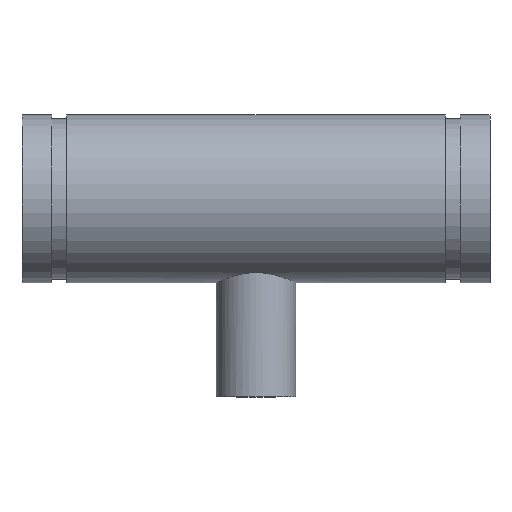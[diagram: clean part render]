
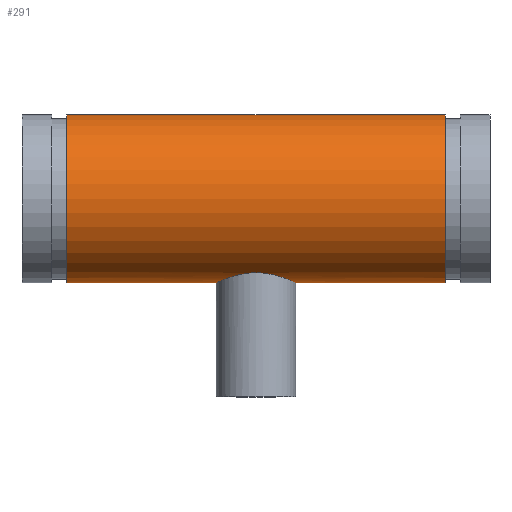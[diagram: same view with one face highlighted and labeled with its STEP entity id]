
A CAD part, top view. The second image highlights one B-rep face of the part: STEP entity #291.
In plain terms, the highlighted cylindrical face has radius 44.45 mm (diameter 88.9 mm), a full revolution.
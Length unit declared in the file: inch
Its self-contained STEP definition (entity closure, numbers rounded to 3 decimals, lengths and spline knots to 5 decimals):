
#45=B_SPLINE_CURVE_WITH_KNOTS('',3,(#511,#512,#513,#514,#515,#516,#517,
#518,#519,#520,#521,#522,#523,#524,#525,#526,#527,#528,#529,#530,#531,#532,
#533,#534,#535,#536,#537,#538,#539,#540,#541,#542,#543,#544,#545,#546,#547,
#548,#549,#550,#551,#552,#553,#554,#555,#556,#557,#558,#559,#560),
 .UNSPECIFIED.,.F.,.F.,(4,2,2,2,2,2,2,2,2,2,2,2,2,2,2,2,2,2,2,2,2,2,2,2,
4),(0.,0.4047,0.80939,1.21409,1.61879,
2.02261,2.42644,2.83027,3.2341,3.63793,
4.04176,4.44558,4.84941,5.25411,5.65881,
6.0635,6.4682,6.8729,7.27759,7.68229,
8.08699,8.49081,8.89464,9.29847,9.7023),
 .UNSPECIFIED.);
#46=B_SPLINE_CURVE_WITH_KNOTS('',3,(#561,#562,#563,#564,#565,#566,#567,
#568,#569,#570,#571,#572,#573,#574,#575,#576,#577,#578),.UNSPECIFIED.,.F.,
 .F.,(4,2,2,2,2,2,2,2,4),(9.7023,10.10613,10.50996,
10.91378,11.31761,11.72231,12.12701,12.5317,
12.9364),.UNSPECIFIED.);
#51=LINE('',#508,#59);
#59=VECTOR('',#410,1.75);
#67=CYLINDRICAL_SURFACE('',#338,1.75);
#77=FACE_BOUND('',#108,.T.);
#88=FACE_OUTER_BOUND('',#107,.T.);
#107=EDGE_LOOP('',(#221,#222,#223,#224));
#108=EDGE_LOOP('',(#225,#226));
#121=CIRCLE('',#321,1.75);
#132=CIRCLE('',#337,1.75);
#141=VERTEX_POINT('',#476);
#152=VERTEX_POINT('',#505);
#153=VERTEX_POINT('',#509);
#154=VERTEX_POINT('',#510);
#165=EDGE_CURVE('',#141,#141,#121,.T.);
#178=EDGE_CURVE('',#152,#152,#132,.T.);
#179=EDGE_CURVE('',#152,#141,#51,.T.);
#180=EDGE_CURVE('',#153,#154,#45,.T.);
#181=EDGE_CURVE('',#154,#153,#46,.T.);
#221=ORIENTED_EDGE('',*,*,#178,.T.);
#222=ORIENTED_EDGE('',*,*,#179,.T.);
#223=ORIENTED_EDGE('',*,*,#165,.T.);
#224=ORIENTED_EDGE('',*,*,#179,.F.);
#225=ORIENTED_EDGE('',*,*,#180,.F.);
#226=ORIENTED_EDGE('',*,*,#181,.F.);
#291=ADVANCED_FACE('',(#88,#77),#67,.T.);
#321=AXIS2_PLACEMENT_3D('',#477,#372,#373);
#337=AXIS2_PLACEMENT_3D('',#506,#406,#407);
#338=AXIS2_PLACEMENT_3D('',#507,#408,#409);
#372=DIRECTION('center_axis',(-1.,0.,0.));
#373=DIRECTION('ref_axis',(0.,-1.,0.));
#406=DIRECTION('center_axis',(1.,0.,0.));
#407=DIRECTION('ref_axis',(0.,-1.,0.));
#408=DIRECTION('center_axis',(-1.,0.,0.));
#409=DIRECTION('ref_axis',(0.,-1.,0.));
#410=DIRECTION('',(1.,0.,0.));
#476=CARTESIAN_POINT('',(3.942,1.75,0.));
#477=CARTESIAN_POINT('Origin',(3.942,0.,0.));
#505=CARTESIAN_POINT('',(-3.942,1.75,0.));
#506=CARTESIAN_POINT('Origin',(-3.942,0.,0.));
#507=CARTESIAN_POINT('Origin',(4.88,0.,0.));
#508=CARTESIAN_POINT('',(4.88,1.75,0.));
#509=CARTESIAN_POINT('',(0.,-1.54065,-0.83));
#510=CARTESIAN_POINT('',(-0.83,-1.75,0.));
#511=CARTESIAN_POINT('Ctrl Pts',(0.,-1.54065,
-0.83));
#512=CARTESIAN_POINT('Ctrl Pts',(0.05311,-1.54065,-0.83));
#513=CARTESIAN_POINT('Ctrl Pts',(0.10769,-1.54348,-0.82482));
#514=CARTESIAN_POINT('Ctrl Pts',(0.21565,-1.55474,-0.80338));
#515=CARTESIAN_POINT('Ctrl Pts',(0.26902,-1.56316,-0.78713));
#516=CARTESIAN_POINT('Ctrl Pts',(0.37094,-1.58389,-0.74455));
#517=CARTESIAN_POINT('Ctrl Pts',(0.41957,-1.59618,-0.71819));
#518=CARTESIAN_POINT('Ctrl Pts',(0.50934,-1.62209,-0.65758));
#519=CARTESIAN_POINT('Ctrl Pts',(0.55048,-1.63569,-0.62332));
#520=CARTESIAN_POINT('Ctrl Pts',(0.62324,-1.66159,-0.55056));
#521=CARTESIAN_POINT('Ctrl Pts',(0.65749,-1.67485,-0.50946));
#522=CARTESIAN_POINT('Ctrl Pts',(0.71813,-1.69957,-0.41967));
#523=CARTESIAN_POINT('Ctrl Pts',(0.74453,-1.71101,-0.37098));
#524=CARTESIAN_POINT('Ctrl Pts',(0.78716,-1.72999,-0.26895));
#525=CARTESIAN_POINT('Ctrl Pts',(0.80342,-1.73752,-0.21552));
#526=CARTESIAN_POINT('Ctrl Pts',(0.82484,-1.74753,-0.10754));
#527=CARTESIAN_POINT('Ctrl Pts',(0.83,-1.75,-0.053));
#528=CARTESIAN_POINT('Ctrl Pts',(0.83,-1.75,0.053));
#529=CARTESIAN_POINT('Ctrl Pts',(0.82484,-1.74753,0.10754));
#530=CARTESIAN_POINT('Ctrl Pts',(0.80342,-1.73752,0.21552));
#531=CARTESIAN_POINT('Ctrl Pts',(0.78716,-1.72999,0.26895));
#532=CARTESIAN_POINT('Ctrl Pts',(0.74453,-1.71101,0.37098));
#533=CARTESIAN_POINT('Ctrl Pts',(0.71813,-1.69957,0.41967));
#534=CARTESIAN_POINT('Ctrl Pts',(0.65749,-1.67485,0.50946));
#535=CARTESIAN_POINT('Ctrl Pts',(0.62324,-1.66159,0.55056));
#536=CARTESIAN_POINT('Ctrl Pts',(0.55048,-1.63569,0.62332));
#537=CARTESIAN_POINT('Ctrl Pts',(0.50934,-1.62209,0.65758));
#538=CARTESIAN_POINT('Ctrl Pts',(0.41957,-1.59618,0.71819));
#539=CARTESIAN_POINT('Ctrl Pts',(0.37094,-1.58389,0.74455));
#540=CARTESIAN_POINT('Ctrl Pts',(0.26902,-1.56316,0.78713));
#541=CARTESIAN_POINT('Ctrl Pts',(0.21565,-1.55474,0.80338));
#542=CARTESIAN_POINT('Ctrl Pts',(0.10769,-1.54348,0.82482));
#543=CARTESIAN_POINT('Ctrl Pts',(0.05311,-1.54065,0.83));
#544=CARTESIAN_POINT('Ctrl Pts',(-0.05311,-1.54065,
0.83));
#545=CARTESIAN_POINT('Ctrl Pts',(-0.10769,-1.54348,0.82482));
#546=CARTESIAN_POINT('Ctrl Pts',(-0.21565,-1.55474,0.80338));
#547=CARTESIAN_POINT('Ctrl Pts',(-0.26902,-1.56316,0.78713));
#548=CARTESIAN_POINT('Ctrl Pts',(-0.37094,-1.58389,0.74455));
#549=CARTESIAN_POINT('Ctrl Pts',(-0.41957,-1.59618,0.71819));
#550=CARTESIAN_POINT('Ctrl Pts',(-0.50934,-1.62209,0.65758));
#551=CARTESIAN_POINT('Ctrl Pts',(-0.55048,-1.63569,0.62332));
#552=CARTESIAN_POINT('Ctrl Pts',(-0.62324,-1.66159,0.55056));
#553=CARTESIAN_POINT('Ctrl Pts',(-0.65749,-1.67485,0.50946));
#554=CARTESIAN_POINT('Ctrl Pts',(-0.71813,-1.69957,0.41967));
#555=CARTESIAN_POINT('Ctrl Pts',(-0.74453,-1.71101,0.37098));
#556=CARTESIAN_POINT('Ctrl Pts',(-0.78716,-1.72999,0.26895));
#557=CARTESIAN_POINT('Ctrl Pts',(-0.80342,-1.73752,0.21552));
#558=CARTESIAN_POINT('Ctrl Pts',(-0.82484,-1.74753,0.10754));
#559=CARTESIAN_POINT('Ctrl Pts',(-0.83,-1.75,0.053));
#560=CARTESIAN_POINT('Ctrl Pts',(-0.83,-1.75,0.));
#561=CARTESIAN_POINT('Ctrl Pts',(-0.83,-1.75,0.));
#562=CARTESIAN_POINT('Ctrl Pts',(-0.83,-1.75,-0.053));
#563=CARTESIAN_POINT('Ctrl Pts',(-0.82484,-1.74753,-0.10754));
#564=CARTESIAN_POINT('Ctrl Pts',(-0.80342,-1.73752,-0.21552));
#565=CARTESIAN_POINT('Ctrl Pts',(-0.78716,-1.72999,-0.26895));
#566=CARTESIAN_POINT('Ctrl Pts',(-0.74453,-1.71101,-0.37098));
#567=CARTESIAN_POINT('Ctrl Pts',(-0.71813,-1.69957,-0.41967));
#568=CARTESIAN_POINT('Ctrl Pts',(-0.65749,-1.67485,-0.50946));
#569=CARTESIAN_POINT('Ctrl Pts',(-0.62324,-1.66159,-0.55056));
#570=CARTESIAN_POINT('Ctrl Pts',(-0.55048,-1.63569,-0.62332));
#571=CARTESIAN_POINT('Ctrl Pts',(-0.50934,-1.62209,-0.65758));
#572=CARTESIAN_POINT('Ctrl Pts',(-0.41957,-1.59618,-0.71819));
#573=CARTESIAN_POINT('Ctrl Pts',(-0.37094,-1.58389,-0.74455));
#574=CARTESIAN_POINT('Ctrl Pts',(-0.26902,-1.56316,-0.78713));
#575=CARTESIAN_POINT('Ctrl Pts',(-0.21565,-1.55474,-0.80338));
#576=CARTESIAN_POINT('Ctrl Pts',(-0.10769,-1.54348,-0.82482));
#577=CARTESIAN_POINT('Ctrl Pts',(-0.05311,-1.54065,
-0.83));
#578=CARTESIAN_POINT('Ctrl Pts',(0.,-1.54065,
-0.83));
